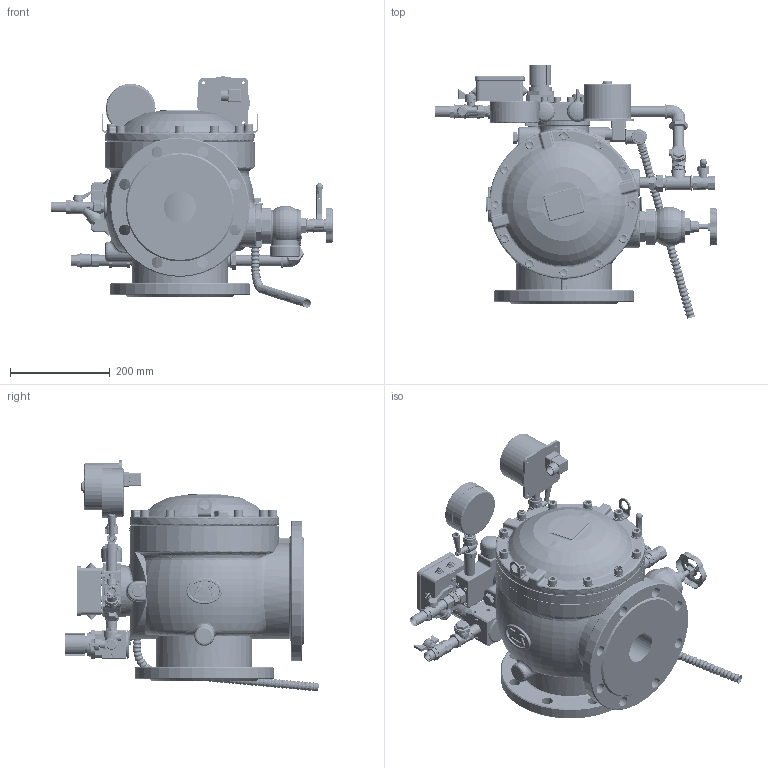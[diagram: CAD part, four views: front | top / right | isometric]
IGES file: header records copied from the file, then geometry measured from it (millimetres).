
Start section: File generated by T-FLEX CAD Version (null)
Global section: file name: 150        .igs; native system: T-FLEX CAD; date: 211014.133147; units: millimetre
Bounding box: 566.75 x 508.21 x 464.21 mm (x, y, z)
Volume: 21075403.1 mm3; surface area: 2095369.2 mm2
Topology: 289 solids, 326 shells, 15241 faces, 37525 edges, 22499 vertices
Faces by surface type: plane 5300, cylinder 4800, revolution 1768, bspline 1571, cone 1166, sphere 636
Full cylindrical faces by diameter (mm): 49 x1
